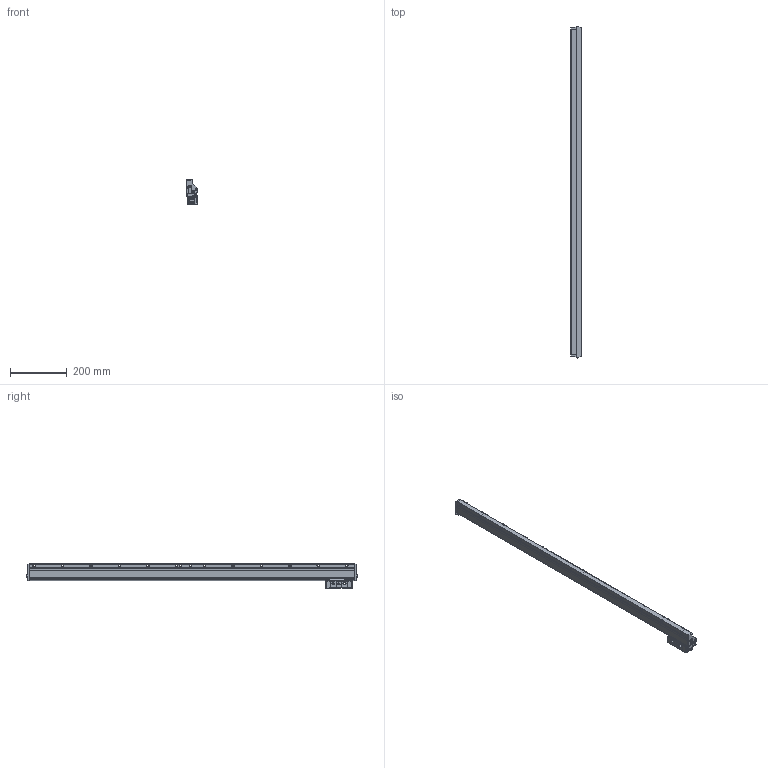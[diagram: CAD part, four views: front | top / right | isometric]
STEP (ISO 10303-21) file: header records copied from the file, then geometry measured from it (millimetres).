
FILE_DESCRIPTION(('Creo Elements/Direct Modeling STEP Export'),'2;1');
FILE_NAME('AT1123-1040.stp','2018-10-12T 9:11:07',(''),(''),'Creo Elements/Direct Modeling STEP processor for AP214 (Solid Model)','Creo Elements/Direct Modeling 18.1B 29-Sep-2012 (C) Parametric Technology GmbH','');
FILE_SCHEMA(('AUTOMOTIVE_DESIGN { 1 0 10303 214 1 1 1 1 }'));
Products named in the file (3): Scale_1040; DetectorHead; AT1123-1040
Assembly tree (2 placements, depth 2):
  AT1123-1040
    DetectorHead
    Scale_1040
Bounding box: 37 x 1168.44 x 85 mm (x, y, z)
Volume: 75071.2 mm3; surface area: 270168.9 mm2
Topology: 1 solids, 2 shells, 3006 faces, 8009 edges, 5196 vertices
Faces by surface type: plane 1793, cylinder 993, cone 118, torus 69, bspline 13, sphere 12, extrusion 8
Entity records: 96132 total; most frequent: CARTESIAN_POINT 17814, ORIENTED_EDGE 16074, DIRECTION 15208, EDGE_CURVE 7990, VECTOR 5250, LINE 5242, VERTEX_POINT 5196, AXIS2_PLACEMENT_3D 4979
